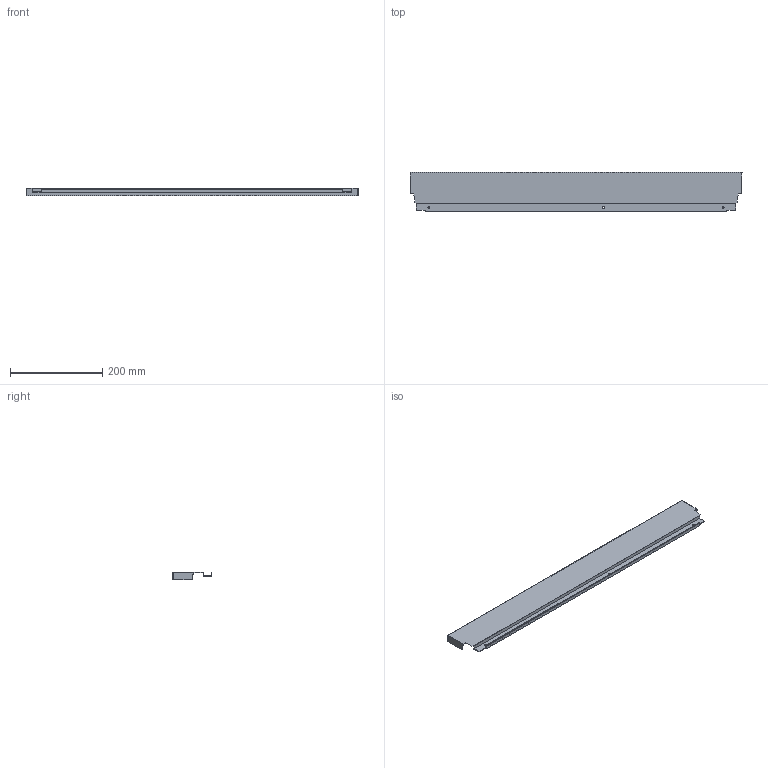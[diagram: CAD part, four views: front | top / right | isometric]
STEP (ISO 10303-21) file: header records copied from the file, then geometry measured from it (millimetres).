
FILE_DESCRIPTION (( 'STEP AP214' ), '1' );
FILE_NAME ('_DWD_XP Stahlrückwand_H86_KAB800_S16.step', '2010-07-08T12:09:59', ( 'grass' ), ( '' ), 'SwSTEP 2.0', 'SolidWorks 2010', '' );
FILE_SCHEMA (( 'AUTOMOTIVE_DESIGN' ));
Length unit declared in the file: millimetre
Products named in the file (1): _DWD_XP Stahlrückwand_H86_KAB800_S16
Bounding box: 719 x 85.79 x 16 mm (x, y, z)
Volume: 76928.1 mm3; surface area: 167168.3 mm2
Topology: 1 solids, 1 shells, 50 faces, 144 edges, 96 vertices
Faces by surface type: plane 44, cylinder 6
Entity records: 1666 total; most frequent: CARTESIAN_POINT 291, ORIENTED_EDGE 288, DIRECTION 258, EDGE_CURVE 144, VECTOR 132, LINE 132, VERTEX_POINT 96, AXIS2_PLACEMENT_3D 63
